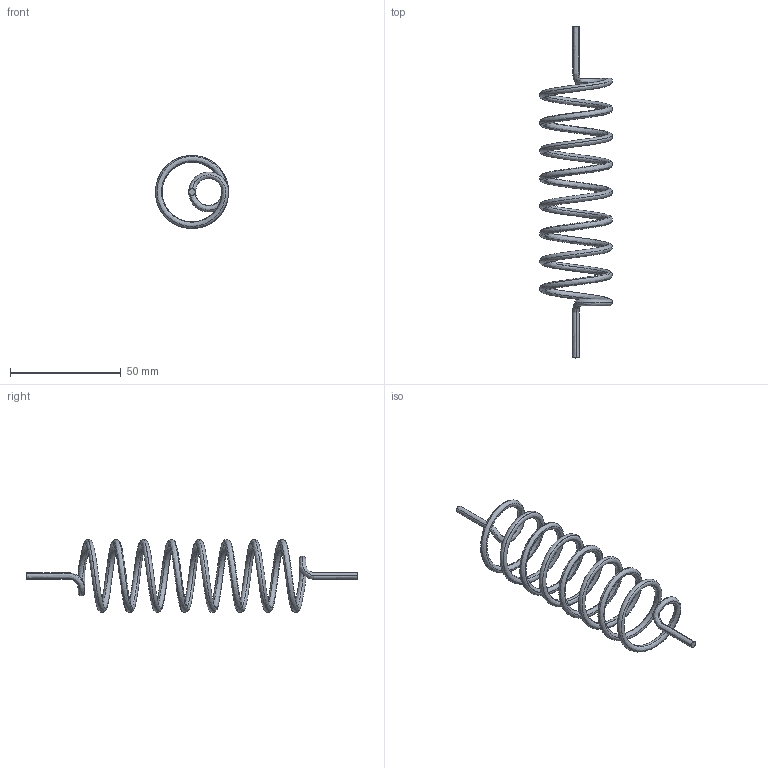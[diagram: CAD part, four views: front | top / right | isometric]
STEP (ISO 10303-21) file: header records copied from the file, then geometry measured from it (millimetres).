
FILE_DESCRIPTION((''),'2;1');
FILE_NAME('FE_ZUGFEDER_STP','2020-04-08T',('DELL'),(''),'CREO PARAMETRIC BY PTC INC, 2017020','CREO PARAMETRIC BY PTC INC, 2017020','');
FILE_SCHEMA(('CONFIG_CONTROL_DESIGN'));
Length unit declared in the file: millimetre
Products named in the file (1): FE_ZUGFEDER_STP
Bounding box: 32.99 x 150 x 32.99 mm (x, y, z)
Volume: 6005.2 mm3; surface area: 16101.9 mm2
Topology: 1 solids, 2 shells, 10 faces, 24 edges, 16 vertices
Faces by surface type: bspline 8, plane 2
Entity records: 12536 total; most frequent: CARTESIAN_POINT 12339, ORIENTED_EDGE 40, B_SPLINE_CURVE_WITH_KNOTS 24, EDGE_CURVE 24, VERTEX_POINT 16, EDGE_LOOP 10, FACE_OUTER_BOUND 10, ADVANCED_FACE 10
